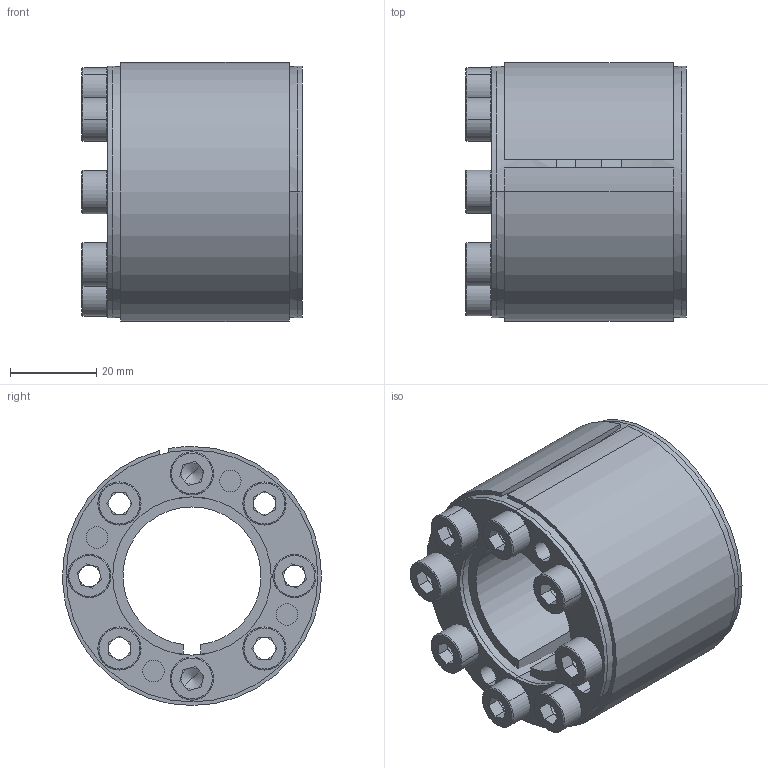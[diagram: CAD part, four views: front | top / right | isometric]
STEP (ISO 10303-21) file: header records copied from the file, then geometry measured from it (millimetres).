
FILE_DESCRIPTION (( 'STEP AP203' ), '1' );
FILE_NAME ('D4-32-60.STEP', '2017-10-14T07:46:04', ( 'MYCOM' ), ( '' ), 'SwSTEP 2.0', 'SolidWorks 2015', '' );
FILE_SCHEMA (( 'CONFIG_CONTROL_DESIGN' ));
Length unit declared in the file: millimetre
Products named in the file (1): D4-32-60
Bounding box: 51 x 59.97 x 60 mm (x, y, z)
Surface area: 39259.7 mm2 (no closed solid volume)
Topology: 0 solids, 14 shells, 243 faces, 663 edges, 430 vertices
Faces by surface type: plane 118, cylinder 75, torus 32, cone 18
Entity records: 7880 total; most frequent: DIRECTION 1473, CARTESIAN_POINT 1378, ORIENTED_EDGE 1182, EDGE_CURVE 659, AXIS2_PLACEMENT_3D 580, VERTEX_POINT 430, CIRCLE 336, VECTOR 313
